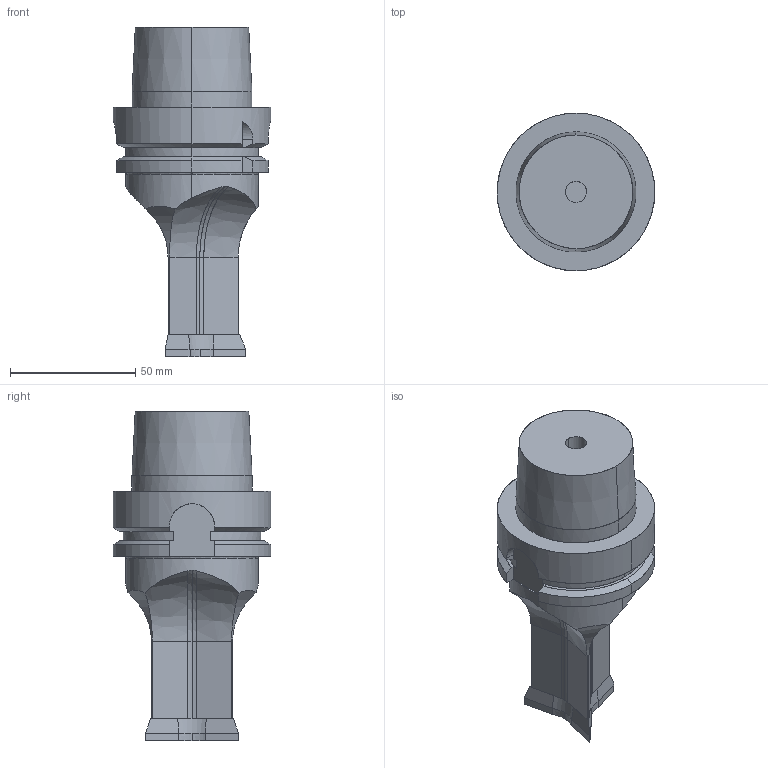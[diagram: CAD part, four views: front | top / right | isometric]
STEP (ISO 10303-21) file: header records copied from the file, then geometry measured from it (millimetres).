
FILE_DESCRIPTION(('OPEN MIND Model'),'2;1');
FILE_NAME('OPEN MIND Shape Model','2021-08-11T11:00:52',('Author'),( 'hyperCAD-S '),'hyperCAD-S STEP processor 6.6','hyperCAD-S 1.0' ,'Unknown');
FILE_SCHEMA(('AUTOMOTIVE_DESIGN { 1 0 10303 214 1 1 1 1 }'));
Length unit declared in the file: millimetre
Products named in the file (108): Product 5; Product 5.1; Product 5.2; Product 5.3; Product 5.4; Product 5.5; Product 5.6; Product 5.7; Product 5.8; Product 5.9; Product 5.10; Product 5.11; Product 5.12; Product 5.13; Product 5.14; Product 5.15; Product 5.16; Product 5.17; Product 5.18; Product 5.19; Product 5.20; Product 5.21; Product 5.22; Product 5.23; Product 5.24; Product 5.25; Product 5.26; Product 5.27; Product 5.28; Product 5.29; Product 5.30; Product 5.31; Product 5.32; Product 5.33; Product 5.34; Product 5.35; Product 5.36; Product 5.37; Product 5.38; Product 5.39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
Assembly tree (107 placements, depth 2):
  Product 5
    Product 5.1
    Product 5.2
    Product 5.3
    Product 5.4
    Product 5.5
    Product 5.6
    Product 5.7
    Product 5.8
    Product 5.9
    Product 5.10
    Product 5.11
    Product 5.12
    Product 5.13
    Product 5.14
    Product 5.15
    Product 5.16
    Product 5.17
    Product 5.18
    Product 5.19
    Product 5.20
    Product 5.21
    Product 5.22
    Product 5.23
    Product 5.24
    Product 5.25
    Product 5.26
    Product 5.27
    Product 5.28
    Product 5.29
    Product 5.30
    Product 5.31
    Product 5.32
    Product 5.33
    Product 5.34
    Product 5.35
    Product 5.36
    Product 5.37
    Product 5.38
    Product 5.39
    Product 5.40
    Product 5.41
    Product 5.42
    Product 5.43
    Product 5.44
    Product 5.45
    Product 5.46
    Product 5.47
    Product 5.48
    Product 5.49
    Product 5.50
    Product 5.51
    Product 5.52
    Product 5.53
    Product 5.54
    Product 5.55
    Product 5.56
    Product 5.57
    Product 5.58
    Product 5.59
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Bounding box: 63 x 63 x 131.81 mm (x, y, z)
Volume: 1077.2 mm3; surface area: 27040.9 mm2
Topology: 1 solids, 107 shells, 119 faces, 592 edges, 581 vertices
Faces by surface type: plane 44, cylinder 33, revolution 31, extrusion 11
Entity records: 15133 total; most frequent: CARTESIAN_POINT 7145, B_SPLINE_CURVE_WITH_KNOTS 1068, ORIENTED_EDGE 625, PCURVE 625, DEFINITIONAL_REPRESENTATION 625, EDGE_CURVE 592, SURFACE_CURVE 592, VERTEX_POINT 581
